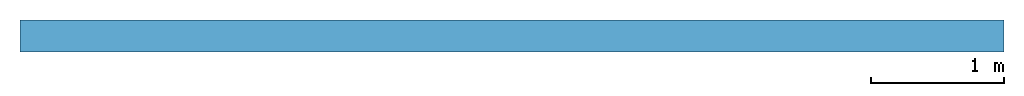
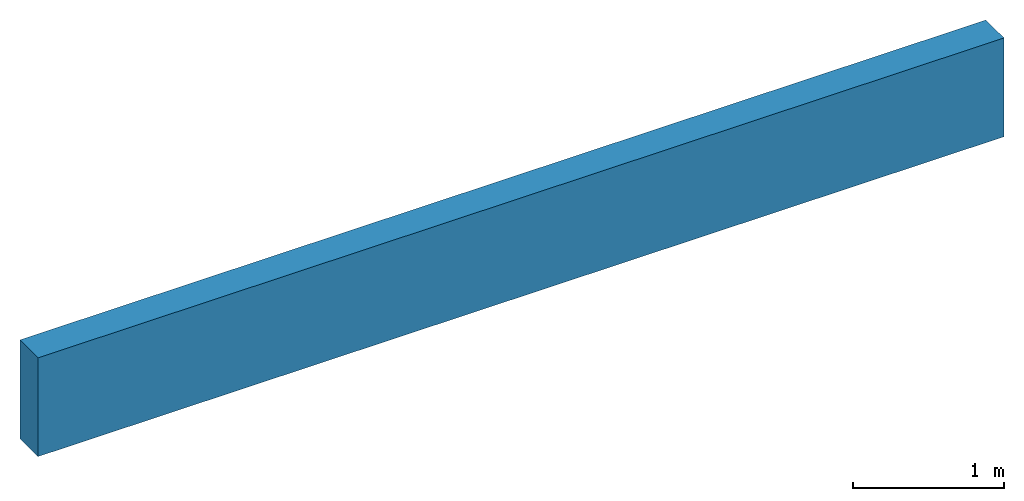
# One storey: 1 wall.
"""IFC2X3 building model written with IfcOpenShell, lengths in metres."""

from ifc_helpers import new_model, entity, si_unit, converted_unit, derived_unit, direction, frame, frame_2d, origin, place, context, subcontext, project, spatial, rectangle, extrude, material, layer, layer_set, layer_usage, type_object, element, save


model = new_model("IFC2X3")

# Units and contexts
model_context = context("Model", 3, precision=1e-05, world=origin(), true_north=direction((6.12303176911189e-17, 1.0)))
body_context = subcontext(model_context, "Body", "Model", "MODEL_VIEW")
ifc_project = project(units=[si_unit("LENGTHUNIT", "METRE"), si_unit("AREAUNIT", "SQUARE_METRE"), si_unit("VOLUMEUNIT", "CUBIC_METRE"), converted_unit("PLANEANGLEUNIT", "DEGREE", entity("IfcRatioMeasure", 0.0174532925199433), si_unit("PLANEANGLEUNIT", "RADIAN"), dimensions=[0, 0, 0, 0, 0, 0, 0]), si_unit("MASSUNIT", "GRAM", prefix="KILO"), derived_unit("MASSDENSITYUNIT", [(si_unit("MASSUNIT", "GRAM", prefix="KILO"), 1), (si_unit("LENGTHUNIT", "METRE"), -3)]), si_unit("TIMEUNIT", "SECOND"), si_unit("FREQUENCYUNIT", "HERTZ"), si_unit("THERMODYNAMICTEMPERATUREUNIT", "DEGREE_CELSIUS"), derived_unit("THERMALTRANSMITTANCEUNIT", [(si_unit("MASSUNIT", "GRAM", prefix="KILO"), 1), (si_unit("THERMODYNAMICTEMPERATUREUNIT", "KELVIN"), -1), (si_unit("TIMEUNIT", "SECOND"), -3)]), derived_unit("VOLUMETRICFLOWRATEUNIT", [(si_unit("LENGTHUNIT", "METRE"), 3), (si_unit("TIMEUNIT", "SECOND"), -1)]), si_unit("ELECTRICCURRENTUNIT", "AMPERE"), si_unit("ELECTRICVOLTAGEUNIT", "VOLT"), si_unit("POWERUNIT", "WATT"), si_unit("FORCEUNIT", "NEWTON", prefix="KILO"), si_unit("ILLUMINANCEUNIT", "LUX"), si_unit("LUMINOUSFLUXUNIT", "LUMEN"), si_unit("LUMINOUSINTENSITYUNIT", "CANDELA"), derived_unit("USERDEFINED", [(si_unit("MASSUNIT", "GRAM", prefix="KILO"), -1), (si_unit("LENGTHUNIT", "METRE"), -2), (si_unit("TIMEUNIT", "SECOND"), 3), (si_unit("LUMINOUSFLUXUNIT", "LUMEN"), 1)]), derived_unit("LINEARVELOCITYUNIT", [(si_unit("LENGTHUNIT", "METRE"), 1), (si_unit("TIMEUNIT", "SECOND"), -1)]), si_unit("PRESSUREUNIT", "PASCAL"), derived_unit("USERDEFINED", [(si_unit("LENGTHUNIT", "METRE"), -2), (si_unit("MASSUNIT", "GRAM", prefix="KILO"), 1), (si_unit("TIMEUNIT", "SECOND"), -2)])], contexts=[model_context])

# Site, building, storey
site_placement = place(None, origin())
site = spatial("IfcSite", under=ifc_project, at=site_placement, Name="Surface", CompositionType="ELEMENT")
building_placement = place(site_placement, origin())
building = spatial("IfcBuilding", under=site, at=building_placement, CompositionType="ELEMENT")
storey_placement = place(building_placement, frame((0.0, 0.0, 5.0)))
storey = spatial("IfcBuildingStorey", under=building, at=storey_placement, Name="Mur rideau", CompositionType="ELEMENT", Elevation=5.0)

# Wall
ifc_material_1 = material(Name="Finition Peinture - Blanc satiné")
ifc_layer_1 = layer(ifc_material_1, 0.02)
ifc_material_2 = material(Name="Maçonnerie - Voile BA")
ifc_layer_2 = layer(ifc_material_2, 0.2)
ifc_material_3 = material(Name="Maçonnerie - Enduit")
ifc_layer_3 = layer(ifc_material_3, 0.02)
ifc_layer_set = layer_set([ifc_layer_1, ifc_layer_2, ifc_layer_3], Name="Mur de base:Poutre ba + Enduit 2 sur 2 faces")
ifc_layer_usage = layer_usage(ifc_layer_set, "AXIS2", "NEGATIVE", 0.12)
wall_type = type_object("IfcWallType", Name="Mur de base:Poutre ba + Enduit 2 sur 2 faces", PredefinedType="STANDARD", material=ifc_layer_set)
wall_placement = place(storey_placement, frame((-1.3024888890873, 1.13701067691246, 0.0)))
element("IfcWallStandardCase", 1, at=wall_placement, inside=storey, type_object=wall_type, material=ifc_layer_usage, Name="Mur de base:Poutre ba + Enduit 2 sur 2 faces", ObjectType="Mur de base:Poutre ba + Enduit 2 sur 2 faces", context=body_context, shape_type="SweptSolid", body=[
    extrude(rectangle(XDim=7.4, YDim=0.24, at=frame_2d((3.7, 0.0), x_axis=(-1.0, 0.0))), origin(), (0.0, 0.0, 1.0), 0.8),
])

save(model, "model.ifc")
